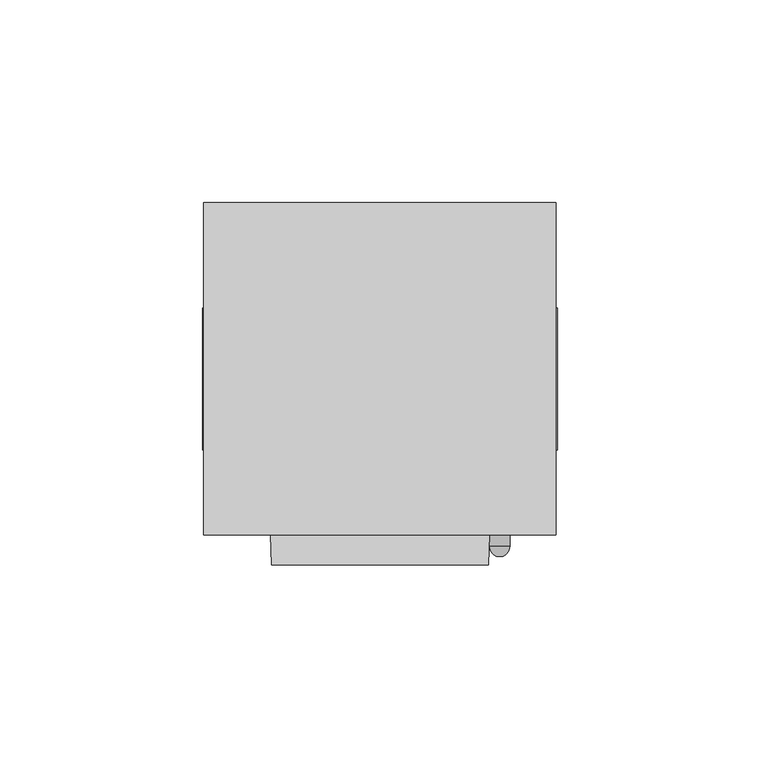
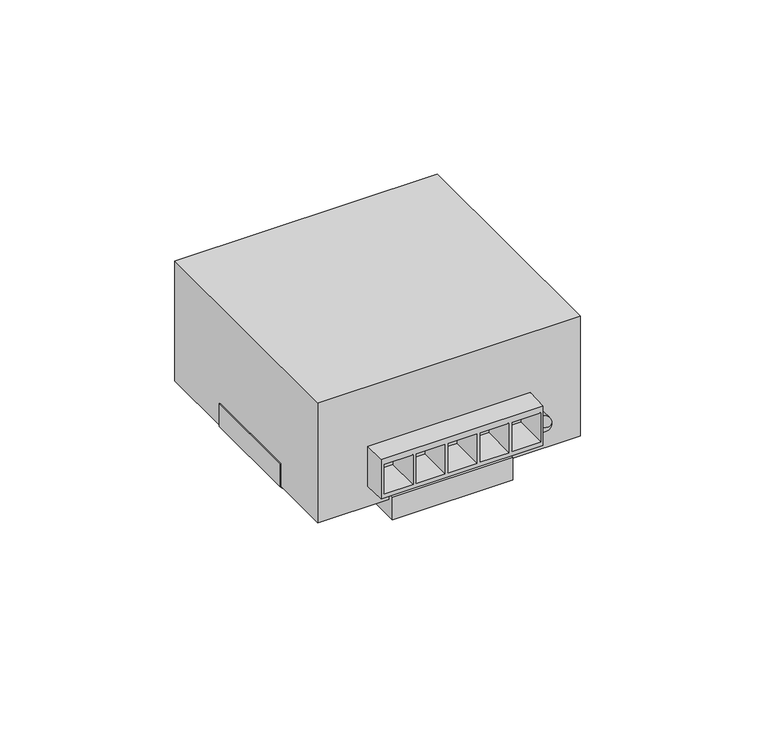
"""IFC4 building model written with IfcOpenShell, lengths in millimetres: proxy geometry, CONVER MAT 24V 12V 6A 10A : CONVER MAT 24V 12V 6A 10A."""

from ifc_helpers import new_model, si_unit, point, frame, frame_2d, origin, place, context, project, spatial, circle_curve, ellipse_curve, trimmed, segment, composite_curve, outline, extrude, faceted_brep, source, transform, mapped, element, save
from ifc_brep_helpers import plane_surface, cylinder_surface, revolved_surface, advanced_brep


def electrical_equipment_a59f9a7e(model_context):
    return source(origin(), model_context, "Body", "SolidModel", [
        extrude(outline(composite_curve([segment(trimmed(circle_curve(frame_2d((-29.2036969, 1.0370041)), 4.0505418), [point((-25.1531551, 1.0370041))], [point((-33.2542387, 1.0370041))], False, "CARTESIAN"), True, "CONTINUOUS"), segment(trimmed(circle_curve(frame_2d((-29.2036969, 1.0370041)), 4.0505418), [point((-33.2542387, 1.0370041))], [point((-25.1531551, 1.0370041))], False, "CARTESIAN"), True, "CONTINUOUS")], self_intersect=False), holes=[composite_curve([segment(trimmed(circle_curve(frame_2d((-29.2036969, 1.0370041)), 2.5505418), [point((-26.6531551, 1.0370041))], [point((-31.7542387, 1.0370041))], True, "CARTESIAN"), True, "CONTINUOUS"), segment(trimmed(circle_curve(frame_2d((-29.2036969, 1.0370041)), 2.5505418), [point((-31.7542387, 1.0370041))], [point((-26.6531551, 1.0370041))], True, "CARTESIAN"), True, "CONTINUOUS")], self_intersect=False)]), frame((0.0, 0.0, -8.0), z_axis=(0.0, 0.0, 1.0), x_axis=(1.0, 0.0, 0.0)), (0.0, 0.0, 1.0), 5.4),
        extrude(outline(composite_curve([segment(trimmed(circle_curve(frame_2d((31.2349469, 1.0370041)), 4.0505418), [point((35.2854887, 1.0370041))], [point((27.1844051, 1.0370041))], False, "CARTESIAN"), True, "CONTINUOUS"), segment(trimmed(circle_curve(frame_2d((31.2349469, 1.0370041)), 4.0505418), [point((27.1844051, 1.0370041))], [point((35.2854887, 1.0370041))], False, "CARTESIAN"), True, "CONTINUOUS")], self_intersect=False), holes=[composite_curve([segment(trimmed(circle_curve(frame_2d((31.2349469, 1.0370041)), 2.5505418), [point((33.7854887, 1.0370041))], [point((28.6844051, 1.0370041))], True, "CARTESIAN"), True, "CONTINUOUS"), segment(trimmed(circle_curve(frame_2d((31.2349469, 1.0370041)), 2.5505418), [point((28.6844051, 1.0370041))], [point((33.7854887, 1.0370041))], True, "CARTESIAN"), True, "CONTINUOUS")], self_intersect=False)]), frame((0.0, 0.0, -8.0), z_axis=(0.0, 0.0, 1.0), x_axis=(1.0, 0.0, 0.0)), (0.0, 0.0, 1.0), 5.4),
        extrude(outline(composite_curve([segment(trimmed(circle_curve(frame_2d((-0.1400531, -24.6090596)), 4.0505418), [point((3.9104887, -24.6090596))], [point((-4.1905949, -24.6090596))], False, "CARTESIAN"), True, "CONTINUOUS"), segment(trimmed(circle_curve(frame_2d((-0.1400531, -24.6090596)), 4.0505418), [point((-4.1905949, -24.6090596))], [point((3.9104887, -24.6090596))], False, "CARTESIAN"), True, "CONTINUOUS")], self_intersect=False), holes=[composite_curve([segment(trimmed(circle_curve(frame_2d((-0.1400531, -24.6090596)), 2.5505418), [point((2.4104887, -24.6090596))], [point((-2.6905949, -24.6090596))], True, "CARTESIAN"), True, "CONTINUOUS"), segment(trimmed(circle_curve(frame_2d((-0.1400531, -24.6090596)), 2.5505418), [point((-2.6905949, -24.6090596))], [point((2.4104887, -24.6090596))], True, "CARTESIAN"), True, "CONTINUOUS")], self_intersect=False)]), frame((0.0, 0.0, -8.0), z_axis=(0.0, 0.0, 1.0), x_axis=(1.0, 0.0, 0.0)), (0.0, 0.0, 1.0), 5.4),
        extrude(outline(composite_curve([segment(trimmed(circle_curve(frame_2d((-29.3618781, 1.0370041)), 6.4155439), [point((-35.7774221, 1.0370041))], [point((-22.9463342, 1.0370041))], False, "CARTESIAN"), True, "CONTINUOUS"), segment(trimmed(circle_curve(frame_2d((-29.3618781, 1.0370041)), 6.4155439), [point((-22.9463342, 1.0370041))], [point((-35.7774221, 1.0370041))], False, "CARTESIAN"), True, "CONTINUOUS")], self_intersect=False), holes=[composite_curve([segment(trimmed(circle_curve(frame_2d((-29.2036969, 1.0370041)), 4.0505418), [point((-33.2542387, 1.0370041))], [point((-25.1531551, 1.0370041))], True, "CARTESIAN"), True, "CONTINUOUS"), segment(trimmed(circle_curve(frame_2d((-29.2036969, 1.0370041)), 4.0505418), [point((-25.1531551, 1.0370041))], [point((-33.2542387, 1.0370041))], True, "CARTESIAN"), True, "CONTINUOUS")], self_intersect=False)]), frame((0.0, 0.0, -6.1), z_axis=(0.0, 0.0, 1.0), x_axis=(1.0, 0.0, 0.0)), (0.0, 0.0, 1.0), 3.5),
        extrude(outline(composite_curve([segment(trimmed(circle_curve(frame_2d((31.3931281, 1.0370041)), 6.4155439), [point((37.8086721, 1.0370041))], [point((24.9775842, 1.0370041))], False, "CARTESIAN"), True, "CONTINUOUS"), segment(trimmed(circle_curve(frame_2d((31.3931281, 1.0370041)), 6.4155439), [point((24.9775842, 1.0370041))], [point((37.8086721, 1.0370041))], False, "CARTESIAN"), True, "CONTINUOUS")], self_intersect=False), holes=[composite_curve([segment(trimmed(circle_curve(frame_2d((31.2349469, 1.0370041)), 4.0505418), [point((35.2854887, 1.0370041))], [point((27.1844051, 1.0370041))], True, "CARTESIAN"), True, "CONTINUOUS"), segment(trimmed(circle_curve(frame_2d((31.2349469, 1.0370041)), 4.0505418), [point((27.1844051, 1.0370041))], [point((35.2854887, 1.0370041))], True, "CARTESIAN"), True, "CONTINUOUS")], self_intersect=False)]), frame((0.0, 0.0, -6.1), z_axis=(0.0, 0.0, 1.0), x_axis=(1.0, 0.0, 0.0)), (0.0, 0.0, 1.0), 3.5),
        extrude(outline(composite_curve([segment(trimmed(circle_curve(frame_2d((0.0181281, -24.6090596)), 6.4155439), [point((6.4336721, -24.6090596))], [point((-6.3974158, -24.6090596))], False, "CARTESIAN"), True, "CONTINUOUS"), segment(trimmed(circle_curve(frame_2d((0.0181281, -24.6090596)), 6.4155439), [point((-6.3974158, -24.6090596))], [point((6.4336721, -24.6090596))], False, "CARTESIAN"), True, "CONTINUOUS")], self_intersect=False), holes=[composite_curve([segment(trimmed(circle_curve(frame_2d((-0.1400531, -24.6090596)), 4.0505418), [point((3.9104887, -24.6090596))], [point((-4.1905949, -24.6090596))], True, "CARTESIAN"), True, "CONTINUOUS"), segment(trimmed(circle_curve(frame_2d((-0.1400531, -24.6090596)), 4.0505418), [point((-4.1905949, -24.6090596))], [point((3.9104887, -24.6090596))], True, "CARTESIAN"), True, "CONTINUOUS")], self_intersect=False)]), frame((0.0, 0.0, -6.1), z_axis=(0.0, 0.0, 1.0), x_axis=(1.0, 0.0, 0.0)), (0.0, 0.0, 1.0), 3.5),
        advanced_brep(
        [(27.0567233, -40.3500723, 11.0472344), (32.0492111, -40.3500723, 11.0472344), (29.5529672, -42.8463163, 11.0472344), (27.0567233, -37.5, 11.0472344), (32.0492111, -37.5, 11.0472344), (29.5529672, -37.5, 11.0472344)],
        [
            (0, 1, circle_curve(frame((29.5529672, -40.3500723, 11.0472344), z_axis=(0.0, -1.0, 0.0), x_axis=(1.0, 0.0, 0.0)), 2.4962439)),
            (1, 2, circle_curve(frame((29.5529672, -40.3500723, 11.0472344), z_axis=(0.0, 0.0, -1.0), x_axis=(1.0, 0.0, 0.0)), 2.4962439)),
            (2, 0, circle_curve(frame((29.5529672, -40.3500723, 11.0472344), z_axis=(0.0, 0.0, -1.0), x_axis=(-1.0, 0.0, 0.0)), 2.4962439)),
            (1, 0, circle_curve(frame((29.5529672, -40.3500723, 11.0472344), z_axis=(0.0, -1.0, 0.0), x_axis=(1.0, 0.0, 0.0)), 2.4962439)),
            (3, 4, circle_curve(frame((29.5529672, -37.5, 11.0472344), z_axis=(0.0, -1.0, 0.0), x_axis=(1.0, 0.0, 0.0)), 2.4962439)),
            (4, 1),
            (0, 3),
            (4, 3, circle_curve(frame((29.5529672, -37.5, 11.0472344), z_axis=(0.0, -1.0, 0.0), x_axis=(1.0, 0.0, 0.0)), 2.4962439)),
            (5, 4),
            (3, 5),
        ],
        [
            revolved_surface(trimmed(ellipse_curve(frame((29.5529672, -40.3500723, 11.0472344), z_axis=(0.0, 0.0, 1.0), x_axis=(1.0, 0.0, 0.0)), 2.4962439, 2.4962439), [point((29.5529672, -42.8463163, 11.0472344))], [point((32.0492111, -40.3500723, 11.0472344))], True, "CARTESIAN"), (29.5529672, -37.5, 11.0472344), (0.0, 1.0, 0.0)),
            cylinder_surface(frame((29.5529672, -37.5, 11.0472344), z_axis=(0.0, 1.0, 0.0), x_axis=(1.0, 0.0, 0.0)), 2.4962439),
            plane_surface(frame((29.5529672, -37.5, 11.0472344), z_axis=(0.0, 1.0, 0.0), x_axis=(1.0, 0.0, 0.0))),
        ],
        [
            (0, [[1, 2, 3]]),
            (0, [[4, -3, -2]]),
            (1, [[5, 6, -1, 7]]),
            (1, [[8, -7, -4, -6]]),
            (2, [[9, -5, 10]]),
            (2, [[-10, -8, -9]]),
        ],
    ),
        faceted_brep([(43.5, 44.5, 42.0), (-43.5, 44.5, 42.0), (-43.5, -37.5, 42.0), (43.5, -37.5, 42.0), (-43.5, 44.5, 0.0), (43.5, 44.5, 0.0), (43.5, 18.5, 0.0), (-43.5, 18.5, 0.0), (43.5, -16.5, 0.0), (43.5, -37.5, 0.0), (20.0, -37.5, 0.0), (20.0, -16.5, 0.0), (-20.0, -37.5, 0.0), (-43.5, -37.5, 0.0), (-43.5, -16.5, 0.0), (-20.0, -16.5, 0.0), (-35.75, 16.5, 0.0), (35.75, 16.5, 0.0), (35.75, -14.5, 0.0), (18.0, -14.5, 0.0), (18.0, -37.5, 0.0), (-18.0, -37.5, 0.0), (-18.0, -14.5, 0.0), (-35.75, -14.5, 0.0), (-43.5, 18.5, 8.0), (-43.5, -16.5, 8.0), (-20.0, -37.5, 1.9), (20.0, -37.5, 1.9), (-26.9991769, -37.5, 20.9), (27.0141846, -37.5, 20.9), (27.0141846, -37.5, 7.0), (20.0, -37.5, 7.0), (-20.0, -37.5, 7.0), (-26.9991769, -37.5, 7.0), (43.5, -16.5, 8.0), (43.5, 18.5, 8.0), (16.6644454, -33.3, 18.6555546), (16.6644454, -33.3, 8.3555546), (26.1444454, -33.3, 8.3555546), (26.1444454, -33.3, 18.6555546), (-16.1755546, -33.3, 8.3555546), (-16.1755546, -33.3, 18.6555546), (-25.6555546, -33.3, 18.6555546), (-25.6555546, -33.3, 8.3555546), (15.5644454, -33.3, 18.6555546), (6.0844454, -33.3, 18.6555546), (6.0844454, -33.3, 8.3555546), (15.5644454, -33.3, 8.3555546), (4.9844454, -33.3, 18.6555546), (-4.4955546, -33.3, 18.6555546), (-4.4955546, -33.3, 8.3555546), (4.9844454, -33.3, 8.3555546), (-5.5955546, -33.3, 18.6555546), (-15.0755546, -33.3, 18.6555546), (-15.0755546, -33.3, 8.3555546), (-5.5955546, -33.3, 8.3555546), (16.6644454, -44.9061945, 18.6555546), (16.6644454, -44.9061945, 8.3555546), (26.1444454, -44.9061945, 8.3555546), (26.1444454, -44.9061945, 18.6555546), (-16.1755546, -44.9061945, 8.3555546), (-16.1755546, -44.9061945, 18.6555546), (-25.6555546, -44.9061945, 18.6555546), (-25.6555546, -44.9061945, 8.3555546), (15.5644454, -44.9061945, 18.6555546), (6.0844454, -44.9061945, 18.6555546), (6.0844454, -44.9061945, 8.3555546), (15.5644454, -44.9061945, 8.3555546), (4.9844454, -44.9061945, 18.6555546), (-4.4955546, -44.9061945, 18.6555546), (-4.4955546, -44.9061945, 8.3555546), (4.9844454, -44.9061945, 8.3555546), (-5.5955546, -44.9061945, 18.6555546), (-15.0755546, -44.9061945, 18.6555546), (-15.0755546, -44.9061945, 8.3555546), (-5.5955546, -44.9061945, 8.3555546), (-26.7555546, -44.9061945, 20.9), (26.7555546, -44.9061945, 20.9), (26.7555546, -44.9061945, 7.0), (-26.7555546, -44.9061945, 7.0), (20.0, -16.5, -6.1), (20.0, -39.5, -6.1), (-20.0, -39.5, -6.1), (-20.0, -16.5, -6.1), (-37.75, -16.5, -6.1), (-37.75, 18.5, -6.1), (37.75, 18.5, -6.1), (37.75, -16.5, -6.1), (35.75, 16.5, -6.1), (-35.75, 16.5, -6.1), (-35.75, -14.5, -6.1), (-18.0, -14.5, -6.1), (-18.0, -37.5, -6.1), (18.0, -37.5, -6.1), (18.0, -14.5, -6.1), (35.75, -14.5, -6.1), (-43.75, 18.5, 8.0), (-43.75, -16.5, 8.0), (43.75, -16.5, 8.0), (43.75, 18.5, 8.0), (43.75, -16.5, -0.1), (43.75, 18.5, -0.1), (20.0, -39.5, 1.9), (-20.0, -39.5, 1.9), (-43.75, -16.5, -0.1), (-43.75, 18.5, -0.1)], [[[0, 1, 2, 3]], [[4, 5, 6, 7]], [[8, 9, 10, 11]], [[12, 13, 14, 15]], [[16, 17, 18, 19, 20, 21, 22, 23]], [[1, 0, 5, 4]], [[2, 1, 4, 7, 24, 25, 14, 13]], [[3, 2, 13, 12, 26, 27, 10, 9], [28, 29, 30, 31, 32, 33]], [[0, 3, 9, 8, 34, 35, 6, 5]], [[36, 37, 38, 39]], [[40, 41, 42, 43]], [[44, 45, 46, 47]], [[48, 49, 50, 51]], [[52, 53, 54, 55]], [[37, 36, 56, 57]], [[38, 37, 57, 58]], [[39, 38, 58, 59]], [[36, 39, 59, 56]], [[41, 40, 60, 61]], [[42, 41, 61, 62]], [[43, 42, 62, 63]], [[40, 43, 63, 60]], [[45, 44, 64, 65]], [[46, 45, 65, 66]], [[47, 46, 66, 67]], [[44, 47, 67, 64]], [[49, 48, 68, 69]], [[50, 49, 69, 70]], [[51, 50, 70, 71]], [[48, 51, 71, 68]], [[53, 52, 72, 73]], [[54, 53, 73, 74]], [[55, 54, 74, 75]], [[52, 55, 75, 72]], [[28, 76, 77, 29]], [[30, 78, 79, 33, 32, 31]], [[76, 28, 33, 79]], [[77, 76, 79, 78], [57, 56, 59, 58], [61, 60, 63, 62], [65, 64, 67, 66], [69, 68, 71, 70], [73, 72, 75, 74]], [[29, 77, 78, 30]], [[80, 81, 82, 83, 84, 85, 86, 87], [88, 89, 90, 91, 92, 93, 94, 95]], [[96, 97, 25, 24]], [[98, 99, 35, 34]], [[99, 98, 100, 101]], [[80, 87, 100, 98, 34, 8, 11]], [[81, 80, 11, 10, 27, 102]], [[82, 81, 102, 103]], [[83, 82, 103, 26, 12, 15]], [[84, 83, 15, 14, 25, 97, 104]], [[97, 96, 105, 104]], [[86, 85, 105, 96, 24, 7, 6, 35, 99, 101]], [[16, 89, 88, 17]], [[89, 16, 23, 90]], [[90, 23, 22, 91]], [[91, 22, 21, 92]], [[92, 21, 20, 93]], [[93, 20, 19, 94]], [[94, 19, 18, 95]], [[17, 88, 95, 18]], [[102, 27, 26, 103]], [[85, 84, 104, 105]], [[87, 86, 101, 100]]]),
    ])


if __name__ == "__main__":
    model = new_model("IFC4")
    model_context = context("Model", 3, world=origin())
    ifc_project = project(units=[si_unit("LENGTHUNIT", "METRE", prefix="MILLI")], contexts=[model_context])
    site = spatial("IfcSite", under=ifc_project)
    building = spatial("IfcBuilding", under=site)
    placement = place(None, origin())
    electrical_equipment_shape = electrical_equipment_a59f9a7e(model_context)
    element("IfcBuildingElementProxy", 1, Name="CONVER MAT 24V 12V 6A 10A : CONVER MAT 24V 12V 6A 10A", ObjectType="CONVER MAT 24V 12V 6A 10A : CONVER MAT 24V 12V 6A 10A", at=placement, inside=building, context=model_context, shape_type="MappedRepresentation", body=[
        mapped(electrical_equipment_shape, transform((0.0, 0.0, 0.0), x_axis=(1.0, 0.0, 0.0), y_axis=(0.0, 1.0, 0.0), z_axis=(0.0, 0.0, 1.0))),
    ])
    save(model, "model.ifc")
